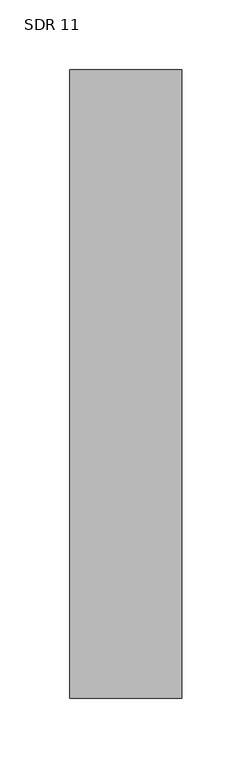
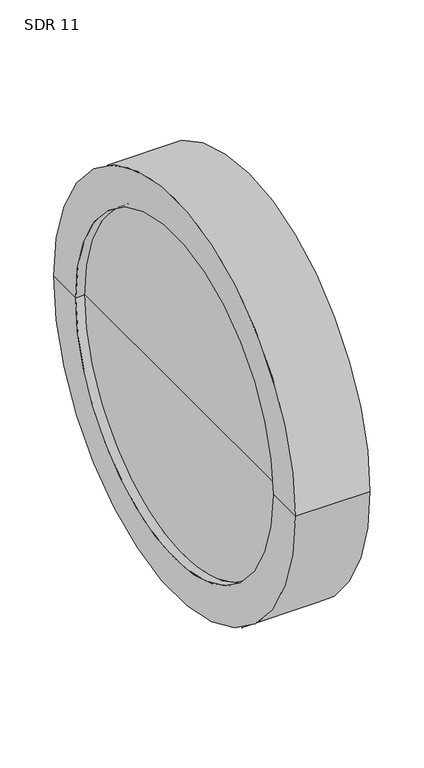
"""IFC4 building model written with IfcOpenShell, lengths in millimetres: pipe fitting geometry, Aquatherm - End Cap Butt-Weld : SDR 11."""

import ifcopenshell
import ifcopenshell.guid

model = None  # the IFC model being written
_history = None  # IfcOwnerHistory: only IFC2X3 demands one
_inside = {}  # id of a spatial element -> (the spatial element, [elements in it])
_under = {}  # id of a project, library or spatial element -> (it, [spatial elements below it])
_declared = {}  # id of a project -> (the project, [libraries it declares])
_typed = {}  # id of a type object -> (the type object, [elements of that type])
_made_of = {}  # id of a material, layer set ... -> (it, [elements and type objects made of it])


def new_model(schema):
    """Start an empty IFC model of exactly this schema.

    Asked for "IFC4X3", IfcOpenShell would pick the latest addendum, in which some entities
    have other attributes; the version numbers below select the first issue.
    IFC2X3 requires an IfcOwnerHistory on every rooted entity: one is made here for all.
    """
    global model, _history
    if schema == "IFC4X3":
        model = ifcopenshell.file(schema_version=(4, 3, 0, 0))
    else:
        model = ifcopenshell.file(schema=schema)
    _inside.clear()
    _under.clear()
    _declared.clear()
    _typed.clear()
    _made_of.clear()
    _history = None
    if model.schema == "IFC2X3":
        org = make("IfcOrganization", Name="unknown")
        user = make(
            "IfcPersonAndOrganization",
            ThePerson=make("IfcPerson", FamilyName="unknown"),
            TheOrganization=org,
        )
        app = make(
            "IfcApplication",
            ApplicationDeveloper=org,
            Version="unknown",
            ApplicationFullName="unknown",
            ApplicationIdentifier="unknown",
        )
        _history = make(
            "IfcOwnerHistory",
            OwningUser=user,
            OwningApplication=app,
            ChangeAction="ADDED",
            CreationDate=0,
        )
    return model


def make(cls, **values):
    """One entity of the class cls with the attributes given. An attribute that is None is left unset."""
    return model.create_entity(
        cls, **{name: value for name, value in values.items() if value is not None}
    )


def rooted(cls, **values):
    """An entity with a GlobalId (a new one), such as an element, a storey or a relation."""
    return make(cls, GlobalId=ifcopenshell.guid.new(), OwnerHistory=_history, **values)


def si_unit(unit_type, name, prefix=None):
    """IfcSIUnit, for example si_unit("LENGTHUNIT", "METRE", prefix="MILLI")."""
    return make("IfcSIUnit", UnitType=unit_type, Prefix=prefix, Name=name)


def assignment(units):
    """IfcUnitAssignment: the units of a project."""
    return None if units is None else make("IfcUnitAssignment", Units=units)


def point(xyz):
    """IfcCartesianPoint."""
    return None if xyz is None else make("IfcCartesianPoint", Coordinates=xyz)


def direction(xyz):
    """IfcDirection."""
    return None if xyz is None else make("IfcDirection", DirectionRatios=xyz)


def frame(location, z_axis=None, x_axis=None):
    """IfcAxis2Placement3D, a coordinate frame: its origin and axes. An axis left out is left unset."""
    return make(
        "IfcAxis2Placement3D",
        Location=point(location),
        Axis=direction(z_axis),
        RefDirection=direction(x_axis),
    )


def origin():
    """The frame at (0, 0, 0) with its axes left unset."""
    return frame((0.0, 0.0, 0.0))


def place(relative_to, where):
    """IfcLocalPlacement: puts the frame where relative to a parent placement (None: the world)."""
    return make(
        "IfcLocalPlacement", PlacementRelTo=relative_to, RelativePlacement=where
    )


def context(
    kind, dimensions, precision=None, world=None, true_north=None, identifier=None
):
    """IfcGeometricRepresentationContext, for example the 3D "Model" context."""
    return make(
        "IfcGeometricRepresentationContext",
        ContextIdentifier=identifier,
        ContextType=kind,
        CoordinateSpaceDimension=dimensions,
        Precision=precision,
        WorldCoordinateSystem=world,
        TrueNorth=true_north,
    )


def project(units=None, contexts=None):
    """IfcProject with its units and contexts."""
    return rooted(
        "IfcProject",
        Name="project",
        RepresentationContexts=contexts,
        UnitsInContext=assignment(units),
    )


def spatial(cls, under=None, at=None, **own):
    """A site, building, storey or space (cls), placed at a placement, below another one or the project."""
    s = rooted(cls, ObjectPlacement=at, **own)
    if under is not None:
        _under.setdefault(under.id(), (under, []))[1].append(s)
    return s


def polyline(points):
    """IfcPolyline through the points."""
    return make("IfcPolyline", Points=[point(p) for p in points])


def circle_curve(where, radius):
    """IfcCircle in the frame where."""
    return make("IfcCircle", Position=where, Radius=radius)


def shape(context_of_items, identifier, shape_type, items):
    """IfcShapeRepresentation: the items that make up one representation, for example the "Body"."""
    return make(
        "IfcShapeRepresentation",
        ContextOfItems=context_of_items,
        RepresentationIdentifier=identifier,
        RepresentationType=shape_type,
        Items=items,
    )


def source(mapping_origin, context_of_items, identifier, shape_type, items):
    """IfcRepresentationMap: a shape defined once, which mapped items show again and again."""
    return make(
        "IfcRepresentationMap",
        MappingOrigin=mapping_origin,
        MappedRepresentation=shape(context_of_items, identifier, shape_type, items),
    )


def transform(
    local_origin,
    x_axis=None,
    y_axis=None,
    z_axis=None,
    scale=None,
    scale2=None,
    scale3=None,
    uniform=True,
):
    """IfcCartesianTransformationOperator3D, or its non-uniform kind. x_axis, y_axis, z_axis: its Axis1, 2, 3."""
    if uniform:
        return make(
            "IfcCartesianTransformationOperator3D",
            Axis1=direction(x_axis),
            Axis2=direction(y_axis),
            LocalOrigin=point(local_origin),
            Scale=scale,
            Axis3=direction(z_axis),
        )
    return make(
        "IfcCartesianTransformationOperator3DnonUniform",
        Axis1=direction(x_axis),
        Axis2=direction(y_axis),
        LocalOrigin=point(local_origin),
        Scale=scale,
        Axis3=direction(z_axis),
        Scale2=scale2,
        Scale3=scale3,
    )


def mapped(mapping_source, mapping_target):
    """IfcMappedItem: shows the shape of a source again, moved by a transform."""
    return make(
        "IfcMappedItem", MappingSource=mapping_source, MappingTarget=mapping_target
    )


def made_of(thing, what):
    """Note that an element or type object is made of a material, layer set ...; save() writes the relation."""
    if what is not None:
        _made_of.setdefault(what.id(), (what, []))[1].append(thing)
    return thing


def element(
    cls,
    number,
    at=None,
    inside=None,
    cuts=None,
    type_object=None,
    material=None,
    context=None,
    identifier="Body",
    shape_type=None,
    held_by="IfcProductDefinitionShape",
    body=None,
    shapes=None,
    **own,
):
    """One element of the class cls, such as IfcWall. Its Tag is "e" and its number.

    at: its placement. inside: the storey or other place that contains it. cuts: it is an
    opening in that element (IfcRelVoidsElement). A single representation is given by context,
    identifier, shape_type and body (its items); several are given by shapes. held_by: the class
    of the entity that holds the representations. save() writes the other relations.
    """
    e = rooted(cls, Tag="e%d" % number, ObjectPlacement=at, **own)
    if body is not None:
        shapes = [shape(context, identifier, shape_type, body)]
    if shapes is not None:
        e.Representation = make(held_by, Representations=shapes)
    if inside is not None:
        _inside.setdefault(inside.id(), (inside, []))[1].append(e)
    if cuts is not None:
        rooted(
            "IfcRelVoidsElement", RelatingBuildingElement=cuts, RelatedOpeningElement=e
        )
    if type_object is not None:
        _typed.setdefault(type_object.id(), (type_object, []))[1].append(e)
    return made_of(e, material)


def aggregate(whole, parts):
    """IfcRelAggregates: a whole, such as a stair, and the parts it consists of."""
    return rooted("IfcRelAggregates", RelatingObject=whole, RelatedObjects=parts)


def save(model, path):
    """Write the relations noted so far, then the file.

    IfcRelAggregates (storeys below a building ...), IfcRelContainedInSpatialStructure (elements
    in a storey), IfcRelDefinesByType, IfcRelAssociatesMaterial and IfcRelDeclares: one each for
    every whole, place, type object, material and project.
    """
    for whole, parts in _under.values():
        aggregate(whole, parts)
    for where, things in _inside.values():
        rooted(
            "IfcRelContainedInSpatialStructure",
            RelatedElements=things,
            RelatingStructure=where,
        )
    for kind, things in _typed.values():
        rooted("IfcRelDefinesByType", RelatedObjects=things, RelatingType=kind)
    for what, things in _made_of.values():
        rooted("IfcRelAssociatesMaterial", RelatedObjects=things, RelatingMaterial=what)
    for by, libraries in _declared.values():
        rooted("IfcRelDeclares", RelatingContext=by, RelatedDefinitions=libraries)
    model.write(path)


def plane_surface(at):
    """IfcPlane: the flat surface through the origin of the frame at, square to its z axis."""
    return make("IfcPlane", Position=at)


def cylinder_surface(at, radius):
    """IfcCylindricalSurface: all points at the distance radius from the z axis of the frame at."""
    return make("IfcCylindricalSurface", Position=at, Radius=radius)


def revolved_surface(curve, axis_point, axis_direction):
    """IfcSurfaceOfRevolution: the curve turned about the line through axis_point along axis_direction."""
    return make(
        "IfcSurfaceOfRevolution",
        SweptCurve=make("IfcArbitraryOpenProfileDef", ProfileType="CURVE", Curve=curve),
        AxisPosition=make("IfcAxis1Placement", Location=point(axis_point), Axis=direction(axis_direction)),
    )


def advanced_brep(points, edges, surfaces, faces):
    """IfcAdvancedBrep: a solid bounded by faces that lie on surfaces and meet in shared edges.

    An edge is (start, end): straight between two places in points (the first is 0);
    or (start, end, curve); or (start, end, curve, False) where it runs against its curve.
    A face is (place in surfaces, loops), or (place, loops, False) where it looks against
    its surface's normal. A loop lists edges by number (the first is 1), with a minus sign
    where the edge is run from its end to its start. The first loop is the outer one.
    """
    corners = [point(p) for p in points]
    vertices = [make("IfcVertexPoint", VertexGeometry=c) for c in corners]
    made = []
    for start, end, *more in edges:
        made.append(
            make(
                "IfcEdgeCurve",
                EdgeStart=vertices[start],
                EdgeEnd=vertices[end],
                EdgeGeometry=more[0] if more else make("IfcPolyline", Points=[corners[start], corners[end]]),
                SameSense=more[1] if len(more) > 1 else True,
            )
        )
    hull = []
    for where, loops, *sense in faces:
        bounds = []
        for j, loop in enumerate(loops):
            ring = [make("IfcOrientedEdge", EdgeElement=made[abs(k) - 1], Orientation=k > 0) for k in loop]
            bounds.append(
                make(
                    "IfcFaceOuterBound" if j == 0 else "IfcFaceBound",
                    Bound=make("IfcEdgeLoop", EdgeList=ring),
                    Orientation=True,
                )
            )
        hull.append(make("IfcAdvancedFace", Bounds=bounds, FaceSurface=surfaces[where], SameSense=sense[0] if sense else True))
    return make("IfcAdvancedBrep", Outer=make("IfcClosedShell", CfsFaces=hull))


def sdr_11_c15d0951(model_context):
    return source(origin(), model_context, "Body", "AdvancedBrep", [
        advanced_brep(
        [(80.01, -224.79, 0.0), (80.01, 224.79, 0.0), (80.01, 0.0, 0.0), (9.906, 0.0, 0.0), (9.906, 184.15, 0.0), (9.906, -184.15, 0.0), (0.0, 184.15, 0.0), (0.0, -184.15, 0.0), (0.0, 224.79, 0.0), (0.0, -224.79, 0.0)],
        [
            (0, 1, circle_curve(frame((80.01, 0.0, 0.0), z_axis=(1.0, 0.0, 0.0), x_axis=(0.0, 1.0, 0.0)), 224.79)),
            (1, 2),
            (2, 0),
            (1, 0, circle_curve(frame((80.01, 0.0, 0.0), z_axis=(1.0, 0.0, 0.0), x_axis=(0.0, 1.0, 0.0)), 224.79)),
            (3, 4),
            (4, 5, circle_curve(frame((9.906, 0.0, 0.0), z_axis=(-1.0, 0.0, 0.0), x_axis=(0.0, 1.0, 0.0)), 184.15)),
            (5, 3),
            (5, 4, circle_curve(frame((9.906, 0.0, 0.0), z_axis=(-1.0, 0.0, 0.0), x_axis=(0.0, 1.0, 0.0)), 184.15)),
            (4, 6),
            (6, 7, circle_curve(frame((0.0, 0.0, 0.0), z_axis=(-1.0, 0.0, 0.0), x_axis=(0.0, 1.0, 0.0)), 184.15)),
            (7, 5),
            (7, 6, circle_curve(frame((0.0, 0.0, 0.0), z_axis=(-1.0, 0.0, 0.0), x_axis=(0.0, 1.0, 0.0)), 184.15)),
            (6, 8),
            (8, 9, circle_curve(frame((0.0, 0.0, 0.0), z_axis=(-1.0, 0.0, 0.0), x_axis=(0.0, 1.0, 0.0)), 224.79)),
            (9, 7),
            (9, 8, circle_curve(frame((0.0, 0.0, 0.0), z_axis=(-1.0, 0.0, 0.0), x_axis=(0.0, 1.0, 0.0)), 224.79)),
            (8, 1),
            (0, 9),
        ],
        [
            plane_surface(frame((80.01, 0.0, 0.0), z_axis=(1.0, 0.0, 0.0), x_axis=(0.0, 1.0, 0.0))),
            plane_surface(frame((9.906, 0.0, 0.0), z_axis=(-1.0, 0.0, 0.0), x_axis=(0.0, 1.0, 0.0))),
            revolved_surface(polyline([(0.0, 184.15, 0.0), (9.905999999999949, 184.15, 0.0)]), (-1363.98, 0.0, 0.0), (-1.0, 0.0, 0.0)),
            plane_surface(frame((0.0, 0.0, 0.0), z_axis=(-1.0, 0.0, 0.0), x_axis=(0.0, 1.0, 0.0))),
            cylinder_surface(frame((-1363.98, 0.0, 0.0), z_axis=(-1.0, 0.0, 0.0), x_axis=(0.0, 1.0, 0.0)), 224.79),
        ],
        [
            (0, [[1, 2, 3]]),
            (0, [[4, -3, -2]]),
            (1, [[5, 6, 7]]),
            (1, [[-7, 8, -5]]),
            (2, [[-6, 9, 10, 11]]),
            (2, [[-8, -11, 12, -9]]),
            (3, [[-10, 13, 14, 15]]),
            (3, [[-12, -15, 16, -13]]),
            (4, [[-14, 17, -1, 18]]),
            (4, [[-16, -18, -4, -17]]),
        ],
    ),
    ])


if __name__ == "__main__":
    model = new_model("IFC4")
    model_context = context("Model", 3, world=origin())
    ifc_project = project(units=[si_unit("LENGTHUNIT", "METRE", prefix="MILLI")], contexts=[model_context])
    site = spatial("IfcSite", under=ifc_project)
    building = spatial("IfcBuilding", under=site)
    placement = place(None, origin())
    sdr_11_shape = sdr_11_c15d0951(model_context)
    element("IfcPipeFitting", 1, ObjectType="Aquatherm - End Cap Butt-Weld : SDR 11", at=placement, inside=building, context=model_context, shape_type="MappedRepresentation", body=[
        mapped(sdr_11_shape, transform((0.0, 0.0, 0.0), x_axis=(1.0, 0.0, 0.0), y_axis=(0.0, 1.0, 0.0), z_axis=(0.0, 0.0, 1.0))),
    ])
    save(model, "model.ifc")
